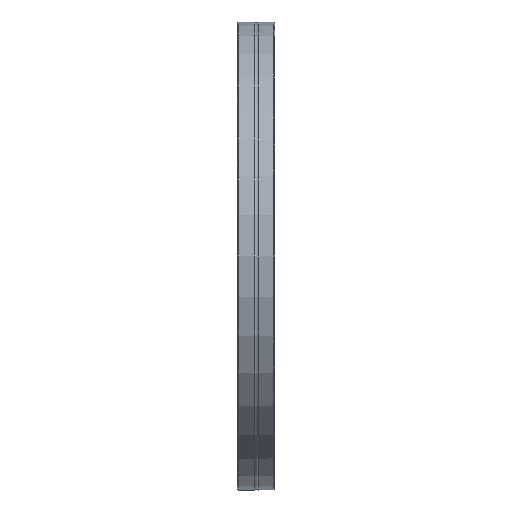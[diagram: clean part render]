
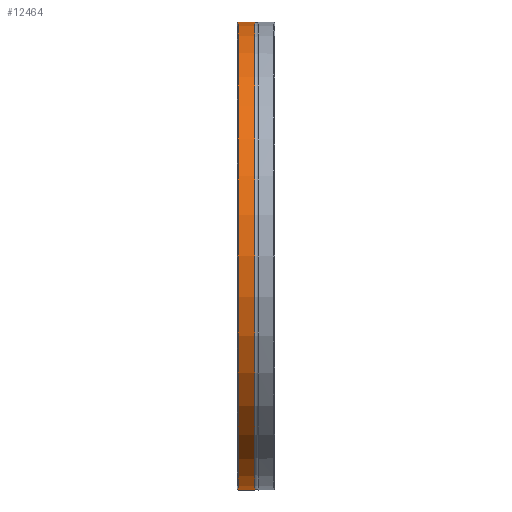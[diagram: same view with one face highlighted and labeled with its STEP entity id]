
A CAD part, front view. The second image highlights one B-rep face of the part: STEP entity #12464.
In plain terms, the highlighted cylindrical face has radius 152.5 mm (diameter 305 mm), a full revolution.
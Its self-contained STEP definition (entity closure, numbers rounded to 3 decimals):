
#12433=CARTESIAN_POINT('',(-23.9,152.5,0.));
#12434=VERTEX_POINT('',#12433);
#12435=CARTESIAN_POINT('',(-23.9,0.,0.0));
#12436=DIRECTION('',(-1.0,0.0,0.0));
#12437=DIRECTION('',(0.0,-1.0,0.0));
#12438=AXIS2_PLACEMENT_3D('',#12435,#12436,#12437);
#12439=CIRCLE('',#12438,152.5);
#12440=EDGE_CURVE('',#12434,#12434,#12439,.T.);
#12445=CARTESIAN_POINT('',(-12.25,0.,0.0));
#12446=DIRECTION('',(1.0,0.,0.0));
#12447=DIRECTION('',(0.0,1.0,0.0));
#12448=AXIS2_PLACEMENT_3D('',#12445,#12446,#12447);
#12449=CYLINDRICAL_SURFACE('',#12448,152.5);
#12450=CARTESIAN_POINT('',(-13.2,152.5,0.0));
#12451=VERTEX_POINT('',#12450);
#12452=CARTESIAN_POINT('',(-13.2,0.,0.0));
#12453=DIRECTION('',(-1.0,0.0,0.0));
#12454=DIRECTION('',(0.0,1.0,0.0));
#12455=AXIS2_PLACEMENT_3D('',#12452,#12453,#12454);
#12456=CIRCLE('',#12455,152.5);
#12457=EDGE_CURVE('',#12451,#12451,#12456,.T.);
#12458=ORIENTED_EDGE('',*,*,#12457,.T.);
#12459=EDGE_LOOP('',(#12458));
#12460=FACE_OUTER_BOUND('',#12459,.T.);
#12461=ORIENTED_EDGE('',*,*,#12440,.F.);
#12462=EDGE_LOOP('',(#12461));
#12463=FACE_BOUND('',#12462,.T.);
#12464=ADVANCED_FACE('',(#12460,#12463),#12449,.T.);
